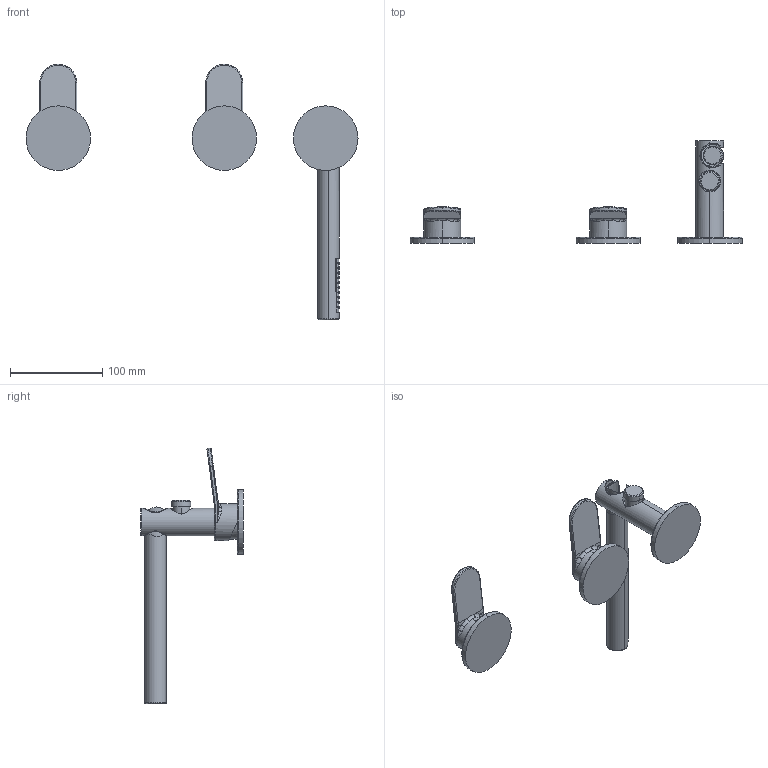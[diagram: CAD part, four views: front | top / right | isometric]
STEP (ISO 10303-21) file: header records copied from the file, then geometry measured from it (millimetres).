
FILE_DESCRIPTION (( 'STEP AP214' ), '1' );
FILE_NAME ('82230810 x architetti.STEP', '2025-01-15T10:37:31', ( '' ), ( '' ), 'SwSTEP 2.0', 'SolidWorks 2020', '' );
FILE_SCHEMA (( 'AUTOMOTIVE_DESIGN' ));
Length unit declared in the file: millimetre
Products named in the file (1): 82230810 x architetti
Bounding box: 360 x 111.2 x 276.8 mm (x, y, z)
Volume: 303123.5 mm3; surface area: 74168.7 mm2
Topology: 5 solids, 7 shells, 306 faces, 674 edges, 423 vertices
Faces by surface type: cylinder 195, plane 47, bspline 42, cone 12, torus 10
Entity records: 18133 total; most frequent: CARTESIAN_POINT 8826, ORIENTED_EDGE 1336, DIRECTION 1064, EDGE_CURVE 668, VERTEX_POINT 423, AXIS2_PLACEMENT_3D 421, EDGE_LOOP 353, FACE_OUTER_BOUND 306
